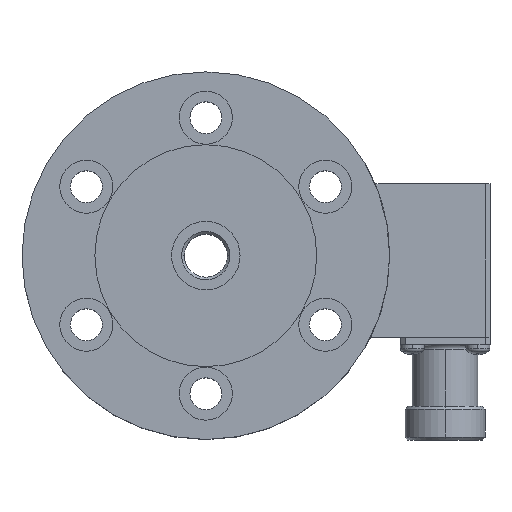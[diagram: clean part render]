
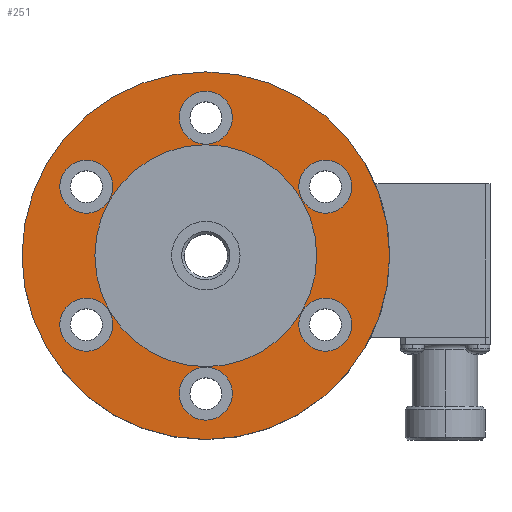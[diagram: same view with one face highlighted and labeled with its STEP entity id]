
A CAD part, top view. The second image highlights one B-rep face of the part: STEP entity #251.
In plain terms, the highlighted planar face has unit normal (0, 0, 1).
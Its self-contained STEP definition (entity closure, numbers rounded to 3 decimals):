
#251=ADVANCED_FACE('',(#627,#628,#629,#630,#631,#632,#633,#634),#635,.T.);
#627=FACE_BOUND('',#1024,.T.);
#628=FACE_BOUND('',#1025,.T.);
#629=FACE_BOUND('',#1026,.T.);
#630=FACE_BOUND('',#1027,.T.);
#631=FACE_BOUND('',#1028,.T.);
#632=FACE_BOUND('',#1029,.T.);
#633=FACE_BOUND('',#1030,.T.);
#634=FACE_OUTER_BOUND('',#1031,.T.);
#635=PLANE('',#1032);
#1024=EDGE_LOOP('',(#2402,#2403));
#1025=EDGE_LOOP('',(#2404,#2405));
#1026=EDGE_LOOP('',(#2406,#2407));
#1027=EDGE_LOOP('',(#2408,#2409));
#1028=EDGE_LOOP('',(#2410,#2411));
#1029=EDGE_LOOP('',(#2412,#2413));
#1030=EDGE_LOOP('',(#2414,#2415));
#1031=EDGE_LOOP('',(#2416,#2417));
#1032=AXIS2_PLACEMENT_3D('',#2418,#2419,#2420);
#2402=ORIENTED_EDGE('',*,*,#2886,.T.);
#2403=ORIENTED_EDGE('',*,*,#2527,.T.);
#2404=ORIENTED_EDGE('',*,*,#2888,.T.);
#2405=ORIENTED_EDGE('',*,*,#2523,.T.);
#2406=ORIENTED_EDGE('',*,*,#2890,.T.);
#2407=ORIENTED_EDGE('',*,*,#2519,.T.);
#2408=ORIENTED_EDGE('',*,*,#2892,.T.);
#2409=ORIENTED_EDGE('',*,*,#2515,.T.);
#2410=ORIENTED_EDGE('',*,*,#2894,.T.);
#2411=ORIENTED_EDGE('',*,*,#2511,.T.);
#2412=ORIENTED_EDGE('',*,*,#2896,.T.);
#2413=ORIENTED_EDGE('',*,*,#2507,.T.);
#2414=ORIENTED_EDGE('',*,*,#2904,.T.);
#2415=ORIENTED_EDGE('',*,*,#2485,.T.);
#2416=ORIENTED_EDGE('',*,*,#2473,.F.);
#2417=ORIENTED_EDGE('',*,*,#2905,.F.);
#2418=CARTESIAN_POINT('',(19.05,0.,25.4));
#2419=DIRECTION('',(0.,0.,1.0));
#2420=DIRECTION('',(-1.0,0.,0.));
#2473=EDGE_CURVE('',#2909,#2912,#2913,.T.);
#2485=EDGE_CURVE('',#2936,#2933,#2937,.T.);
#2507=EDGE_CURVE('',#2976,#2973,#2977,.T.);
#2511=EDGE_CURVE('',#2984,#2981,#2985,.T.);
#2515=EDGE_CURVE('',#2992,#2989,#2993,.T.);
#2519=EDGE_CURVE('',#3000,#2997,#3001,.T.);
#2523=EDGE_CURVE('',#3008,#3005,#3009,.T.);
#2527=EDGE_CURVE('',#3016,#3013,#3017,.T.);
#2886=EDGE_CURVE('',#3013,#3016,#3599,.T.);
#2888=EDGE_CURVE('',#3005,#3008,#3601,.T.);
#2890=EDGE_CURVE('',#2997,#3000,#3603,.T.);
#2892=EDGE_CURVE('',#2989,#2992,#3605,.T.);
#2894=EDGE_CURVE('',#2981,#2984,#3607,.T.);
#2896=EDGE_CURVE('',#2973,#2976,#3609,.T.);
#2904=EDGE_CURVE('',#2933,#2936,#3617,.T.);
#2905=EDGE_CURVE('',#2912,#2909,#3618,.T.);
#2909=VERTEX_POINT('',#3622);
#2912=VERTEX_POINT('',#3626);
#2913=CIRCLE('',#3627,38.1);
#2933=VERTEX_POINT('',#3652);
#2936=VERTEX_POINT('',#3656);
#2937=CIRCLE('',#3657,23.0);
#2973=VERTEX_POINT('',#3704);
#2976=VERTEX_POINT('',#3708);
#2977=CIRCLE('',#3709,5.5);
#2981=VERTEX_POINT('',#3714);
#2984=VERTEX_POINT('',#3718);
#2985=CIRCLE('',#3719,5.5);
#2989=VERTEX_POINT('',#3724);
#2992=VERTEX_POINT('',#3728);
#2993=CIRCLE('',#3729,5.5);
#2997=VERTEX_POINT('',#3734);
#3000=VERTEX_POINT('',#3738);
#3001=CIRCLE('',#3739,5.5);
#3005=VERTEX_POINT('',#3744);
#3008=VERTEX_POINT('',#3748);
#3009=CIRCLE('',#3749,5.5);
#3013=VERTEX_POINT('',#3754);
#3016=VERTEX_POINT('',#3758);
#3017=CIRCLE('',#3759,5.5);
#3599=CIRCLE('',#5021,5.5);
#3601=CIRCLE('',#5023,5.5);
#3603=CIRCLE('',#5025,5.5);
#3605=CIRCLE('',#5027,5.5);
#3607=CIRCLE('',#5029,5.5);
#3609=CIRCLE('',#5031,5.5);
#3617=CIRCLE('',#5039,23.0);
#3618=CIRCLE('',#5040,38.1);
#3622=CARTESIAN_POINT('',(38.1,0.,25.4));
#3626=CARTESIAN_POINT('',(-38.1,0.,25.4));
#3627=AXIS2_PLACEMENT_3D('',#5045,#5046,#5047);
#3652=CARTESIAN_POINT('',(23.0,0.0,25.4));
#3656=CARTESIAN_POINT('',(-23.0,0.,25.4));
#3657=AXIS2_PLACEMENT_3D('',#5069,#5070,#5071);
#3704=CARTESIAN_POINT('',(-29.531,-17.05,25.4));
#3708=CARTESIAN_POINT('',(-20.005,-11.55,25.4));
#3709=AXIS2_PLACEMENT_3D('',#5111,#5112,#5113);
#3714=CARTESIAN_POINT('',(0.,-34.1,25.4));
#3718=CARTESIAN_POINT('',(0.,-23.1,25.4));
#3719=AXIS2_PLACEMENT_3D('',#5119,#5120,#5121);
#3724=CARTESIAN_POINT('',(29.531,-17.05,25.4));
#3728=CARTESIAN_POINT('',(20.005,-11.55,25.4));
#3729=AXIS2_PLACEMENT_3D('',#5127,#5128,#5129);
#3734=CARTESIAN_POINT('',(29.531,17.05,25.4));
#3738=CARTESIAN_POINT('',(20.005,11.55,25.4));
#3739=AXIS2_PLACEMENT_3D('',#5135,#5136,#5137);
#3744=CARTESIAN_POINT('',(0.,34.1,25.4));
#3748=CARTESIAN_POINT('',(0.,23.1,25.4));
#3749=AXIS2_PLACEMENT_3D('',#5143,#5144,#5145);
#3754=CARTESIAN_POINT('',(-29.531,17.05,25.4));
#3758=CARTESIAN_POINT('',(-20.005,11.55,25.4));
#3759=AXIS2_PLACEMENT_3D('',#5151,#5152,#5153);
#5021=AXIS2_PLACEMENT_3D('',#5736,#5737,#5738);
#5023=AXIS2_PLACEMENT_3D('',#5742,#5743,#5744);
#5025=AXIS2_PLACEMENT_3D('',#5748,#5749,#5750);
#5027=AXIS2_PLACEMENT_3D('',#5754,#5755,#5756);
#5029=AXIS2_PLACEMENT_3D('',#5760,#5761,#5762);
#5031=AXIS2_PLACEMENT_3D('',#5766,#5767,#5768);
#5039=AXIS2_PLACEMENT_3D('',#5790,#5791,#5792);
#5040=AXIS2_PLACEMENT_3D('',#5793,#5794,#5795);
#5045=CARTESIAN_POINT('',(0.0,0.,25.4));
#5046=DIRECTION('',(0.0,0.,-1.0));
#5047=DIRECTION('',(1.0,0.0,0.0));
#5069=CARTESIAN_POINT('',(0.0,0.0,25.4));
#5070=DIRECTION('',(0.,0.,-1.0));
#5071=DIRECTION('',(1.0,0.,0.));
#5111=CARTESIAN_POINT('',(-24.768,-14.3,25.4));
#5112=DIRECTION('',(0.,0.,-1.0));
#5113=DIRECTION('',(-0.866,-0.5,0.));
#5119=CARTESIAN_POINT('',(0.,-28.6,25.4));
#5120=DIRECTION('',(0.,0.,-1.0));
#5121=DIRECTION('',(0.,-1.0,0.));
#5127=CARTESIAN_POINT('',(24.768,-14.3,25.4));
#5128=DIRECTION('',(0.,0.,-1.0));
#5129=DIRECTION('',(0.866,-0.5,0.));
#5135=CARTESIAN_POINT('',(24.768,14.3,25.4));
#5136=DIRECTION('',(0.,0.,-1.0));
#5137=DIRECTION('',(0.866,0.5,0.));
#5143=CARTESIAN_POINT('',(0.,28.6,25.4));
#5144=DIRECTION('',(0.,0.,-1.0));
#5145=DIRECTION('',(0.,1.0,0.));
#5151=CARTESIAN_POINT('',(-24.768,14.3,25.4));
#5152=DIRECTION('',(0.,0.,-1.0));
#5153=DIRECTION('',(-0.866,0.5,0.));
#5736=CARTESIAN_POINT('',(-24.768,14.3,25.4));
#5737=DIRECTION('',(0.,0.,-1.0));
#5738=DIRECTION('',(-0.866,0.5,0.));
#5742=CARTESIAN_POINT('',(0.,28.6,25.4));
#5743=DIRECTION('',(0.,0.,-1.0));
#5744=DIRECTION('',(0.,1.0,0.));
#5748=CARTESIAN_POINT('',(24.768,14.3,25.4));
#5749=DIRECTION('',(0.,0.,-1.0));
#5750=DIRECTION('',(0.866,0.5,0.));
#5754=CARTESIAN_POINT('',(24.768,-14.3,25.4));
#5755=DIRECTION('',(0.,0.,-1.0));
#5756=DIRECTION('',(0.866,-0.5,0.));
#5760=CARTESIAN_POINT('',(0.,-28.6,25.4));
#5761=DIRECTION('',(0.,0.,-1.0));
#5762=DIRECTION('',(0.,-1.0,0.));
#5766=CARTESIAN_POINT('',(-24.768,-14.3,25.4));
#5767=DIRECTION('',(0.,0.,-1.0));
#5768=DIRECTION('',(-0.866,-0.5,0.));
#5790=CARTESIAN_POINT('',(0.0,0.0,25.4));
#5791=DIRECTION('',(0.,0.,-1.0));
#5792=DIRECTION('',(1.0,0.,0.));
#5793=CARTESIAN_POINT('',(0.0,0.,25.4));
#5794=DIRECTION('',(0.0,0.,-1.0));
#5795=DIRECTION('',(1.0,0.0,0.0));
